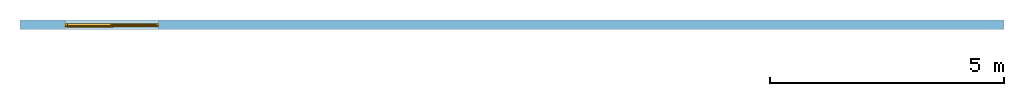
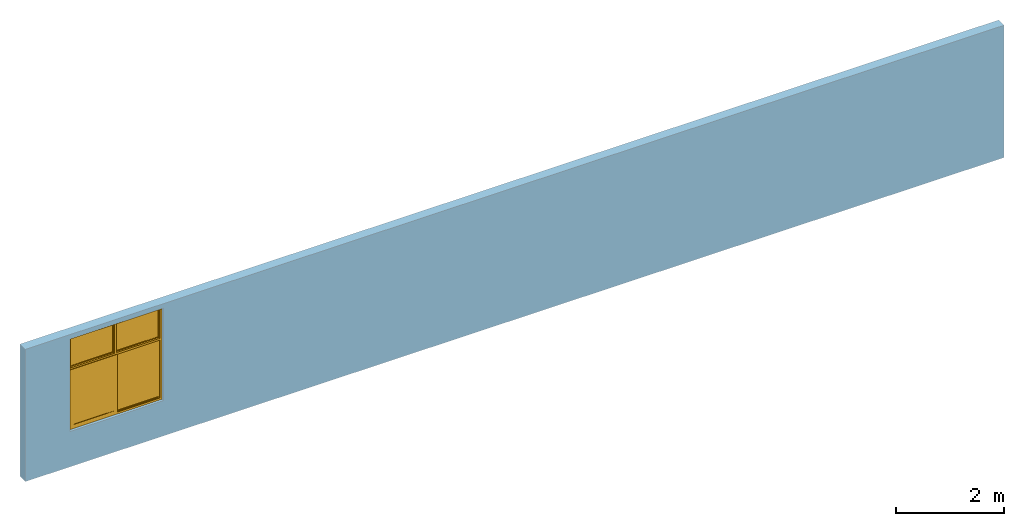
# One storey, part 2 of 2: 1 window, 1 opening, plus 1 element that does not belong to this part.
"""IFC2X3 building model written with IfcOpenShell, lengths in metres."""

from ifc_helpers import new_model, entity, si_unit, converted_unit, derived_unit, direction, frame, frame_2d, origin, place, context, subcontext, project, spatial, rectangle, extrude, faceted_brep, source, transform, mapped, material, material_list, layer, layer_set, layer_usage, type_object, type_shapes, element, fill, save


model = new_model("IFC2X3")

# Units and contexts
model_context = context("Model", 3, precision=1e-05, world=origin(), true_north=direction((6.123031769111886e-17, 1.0)))
body_context = subcontext(model_context, "Body", "Model", "MODEL_VIEW")
ifc_project = project(units=[si_unit("LENGTHUNIT", "METRE"), si_unit("AREAUNIT", "SQUARE_METRE"), si_unit("VOLUMEUNIT", "CUBIC_METRE"), converted_unit("PLANEANGLEUNIT", "DEGREE", entity("IfcPlaneAngleMeasure", 0.017453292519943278), si_unit("PLANEANGLEUNIT", "RADIAN"), dimensions=[0, 0, 0, 0, 0, 0, 0]), si_unit("MASSUNIT", "GRAM", prefix="KILO"), derived_unit("MASSDENSITYUNIT", [(si_unit("MASSUNIT", "GRAM", prefix="KILO"), 1), (si_unit("LENGTHUNIT", "METRE"), -3)]), derived_unit("IONCONCENTRATIONUNIT", [(si_unit("MASSUNIT", "GRAM", prefix="KILO"), 1), (si_unit("LENGTHUNIT", "METRE"), -3)]), derived_unit("MOMENTOFINERTIAUNIT", [(si_unit("LENGTHUNIT", "METRE"), 4)]), si_unit("TIMEUNIT", "SECOND"), si_unit("FREQUENCYUNIT", "HERTZ"), si_unit("THERMODYNAMICTEMPERATUREUNIT", "DEGREE_CELSIUS"), derived_unit("THERMALTRANSMITTANCEUNIT", [(si_unit("MASSUNIT", "GRAM", prefix="KILO"), 1), (si_unit("THERMODYNAMICTEMPERATUREUNIT", "KELVIN"), -1), (si_unit("TIMEUNIT", "SECOND"), -3)]), derived_unit("THERMALCONDUCTANCEUNIT", [(si_unit("MASSUNIT", "GRAM", prefix="KILO"), 1), (si_unit("THERMODYNAMICTEMPERATUREUNIT", "KELVIN"), -1), (si_unit("TIMEUNIT", "SECOND"), -3), (si_unit("LENGTHUNIT", "METRE"), 1)]), derived_unit("VOLUMETRICFLOWRATEUNIT", [(si_unit("LENGTHUNIT", "METRE", prefix="DECI"), 3), (si_unit("TIMEUNIT", "SECOND"), -1)]), derived_unit("MASSFLOWRATEUNIT", [(si_unit("MASSUNIT", "GRAM", prefix="KILO"), 1), (si_unit("TIMEUNIT", "SECOND"), -1)]), derived_unit("ROTATIONALFREQUENCYUNIT", [(si_unit("TIMEUNIT", "SECOND"), -1)]), si_unit("ELECTRICCURRENTUNIT", "AMPERE"), si_unit("ELECTRICVOLTAGEUNIT", "VOLT"), si_unit("POWERUNIT", "WATT"), si_unit("FORCEUNIT", "NEWTON", prefix="KILO"), si_unit("ILLUMINANCEUNIT", "LUX"), si_unit("LUMINOUSFLUXUNIT", "LUMEN"), si_unit("LUMINOUSINTENSITYUNIT", "CANDELA"), si_unit("ENERGYUNIT", "JOULE"), derived_unit("USERDEFINED", [(si_unit("MASSUNIT", "GRAM", prefix="KILO"), -1), (si_unit("LENGTHUNIT", "METRE"), -2), (si_unit("TIMEUNIT", "SECOND"), 3), (si_unit("LUMINOUSFLUXUNIT", "LUMEN"), 1)]), derived_unit("USERDEFINED", [(si_unit("MASSUNIT", "GRAM", prefix="KILO"), 1), (si_unit("TIMEUNIT", "SECOND"), -3), (si_unit("LENGTHUNIT", "METRE"), 3), (si_unit("ELECTRICCURRENTUNIT", "AMPERE"), -2)]), derived_unit("SOUNDPOWERUNIT", [(si_unit("MASSUNIT", "GRAM", prefix="KILO"), 1), (si_unit("TIMEUNIT", "SECOND"), -3), (si_unit("LENGTHUNIT", "METRE"), 2)]), derived_unit("SOUNDPRESSUREUNIT", [(si_unit("MASSUNIT", "GRAM", prefix="KILO"), 1), (si_unit("LENGTHUNIT", "METRE"), -1), (si_unit("TIMEUNIT", "SECOND"), -2)]), derived_unit("LINEARVELOCITYUNIT", [(si_unit("LENGTHUNIT", "METRE"), 1), (si_unit("TIMEUNIT", "SECOND"), -1)]), si_unit("PRESSUREUNIT", "PASCAL"), derived_unit("USERDEFINED", [(si_unit("MASSUNIT", "GRAM", prefix="KILO"), 1), (si_unit("LENGTHUNIT", "METRE"), -2), (si_unit("TIMEUNIT", "SECOND"), -2)]), derived_unit("LINEARFORCEUNIT", [(si_unit("MASSUNIT", "GRAM", prefix="KILO"), 1), (si_unit("TIMEUNIT", "SECOND"), -2)]), derived_unit("PLANARFORCEUNIT", [(si_unit("MASSUNIT", "GRAM", prefix="KILO"), 1), (si_unit("LENGTHUNIT", "METRE"), -1), (si_unit("TIMEUNIT", "SECOND"), -2)]), derived_unit("SPECIFICHEATCAPACITYUNIT", [(si_unit("THERMODYNAMICTEMPERATUREUNIT", "KELVIN"), -1), (si_unit("LENGTHUNIT", "METRE"), 2), (si_unit("TIMEUNIT", "SECOND"), -2)]), derived_unit("HEATFLUXDENSITYUNIT", [(si_unit("MASSUNIT", "GRAM", prefix="KILO"), 1), (si_unit("TIMEUNIT", "SECOND"), -3)]), derived_unit("HEATINGVALUEUNIT", [(si_unit("LENGTHUNIT", "METRE"), 2), (si_unit("TIMEUNIT", "SECOND"), -2)]), derived_unit("VAPORPERMEABILITYUNIT", [(si_unit("LENGTHUNIT", "METRE"), -1), (si_unit("TIMEUNIT", "SECOND"), 1)]), derived_unit("DYNAMICVISCOSITYUNIT", [(si_unit("MASSUNIT", "GRAM", prefix="KILO"), 1), (si_unit("TIMEUNIT", "SECOND"), -1), (si_unit("LENGTHUNIT", "METRE"), -1)]), derived_unit("THERMALEXPANSIONCOEFFICIENTUNIT", [(si_unit("THERMODYNAMICTEMPERATUREUNIT", "KELVIN"), -1)]), derived_unit("MODULUSOFELASTICITYUNIT", [(si_unit("MASSUNIT", "GRAM", prefix="KILO"), 1), (si_unit("LENGTHUNIT", "METRE"), -1), (si_unit("TIMEUNIT", "SECOND"), -2)]), derived_unit("ISOTHERMALMOISTURECAPACITYUNIT", [(si_unit("MASSUNIT", "GRAM", prefix="KILO"), -1), (si_unit("LENGTHUNIT", "METRE"), 3)]), derived_unit("MOISTUREDIFFUSIVITYUNIT", [(si_unit("TIMEUNIT", "SECOND"), -1), (si_unit("LENGTHUNIT", "METRE"), 2)]), derived_unit("MASSPERLENGTHUNIT", [(si_unit("MASSUNIT", "GRAM", prefix="KILO"), 1), (si_unit("LENGTHUNIT", "METRE"), -1)]), derived_unit("THERMALRESISTANCEUNIT", [(si_unit("MASSUNIT", "GRAM", prefix="KILO"), -1), (si_unit("TIMEUNIT", "SECOND"), 3), (si_unit("THERMODYNAMICTEMPERATUREUNIT", "KELVIN"), 1)]), derived_unit("ACCELERATIONUNIT", [(si_unit("LENGTHUNIT", "METRE"), 1), (si_unit("TIMEUNIT", "SECOND"), -2)]), derived_unit("ANGULARVELOCITYUNIT", [(si_unit("TIMEUNIT", "SECOND"), -1), (si_unit("PLANEANGLEUNIT", "RADIAN"), 1)]), derived_unit("LINEARSTIFFNESSUNIT", [(si_unit("MASSUNIT", "GRAM", prefix="KILO"), 1), (si_unit("TIMEUNIT", "SECOND"), -2)]), derived_unit("WARPINGCONSTANTUNIT", [(si_unit("LENGTHUNIT", "METRE"), 6)]), derived_unit("LINEARMOMENTUNIT", [(si_unit("MASSUNIT", "GRAM", prefix="KILO"), 1), (si_unit("LENGTHUNIT", "METRE"), 1), (si_unit("TIMEUNIT", "SECOND"), -2)]), derived_unit("TORQUEUNIT", [(si_unit("MASSUNIT", "GRAM", prefix="KILO"), 1), (si_unit("LENGTHUNIT", "METRE"), 2), (si_unit("TIMEUNIT", "SECOND"), -2)])], contexts=[model_context])

# Site, building, storey
site_placement = place(None, origin())
site = spatial("IfcSite", under=ifc_project, at=site_placement, Name="Default", CompositionType="ELEMENT")
building_placement = place(site_placement, origin())
building = spatial("IfcBuilding", under=site, at=building_placement, CompositionType="ELEMENT")
storey_placement = place(building_placement, origin())
storey = spatial("IfcBuildingStorey", under=building, at=storey_placement, Name="Nivel 1", CompositionType="ELEMENT", Elevation=0.0)

# Wall, opening, window
ifc_material_1 = material(Name="Muro por defecto")
ifc_layer = layer(ifc_material_1, 0.2)
ifc_layer_set = layer_set([ifc_layer], Name="Basic Wall:Por defecto - 20 cm")
ifc_layer_usage = layer_usage(ifc_layer_set, "AXIS2", "NEGATIVE", 0.1)
wall_type = type_object("IfcWallType", Name="Basic Wall:Por defecto - 20 cm", PredefinedType="STANDARD", material=ifc_layer_set)
wall_placement = place(storey_placement, frame((-9.553280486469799, 0.007588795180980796, 0.0)))
wall = element("IfcWallStandardCase", 1, at=wall_placement, inside=storey, type_object=wall_type, material=ifc_layer_usage, Name="Basic Wall:Por defecto - 20 cm", ObjectType="Basic Wall:Por defecto - 20 cm", context=body_context, shape_type="SweptSolid", body=[
    extrude(rectangle(XDim=21.0, YDim=0.2, at=frame_2d((10.5, 0.0), x_axis=(-1.0, 0.0))), origin(), (0.0, 0.0, 1.0), 2.9999999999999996),
])
opening_placement = place(wall_placement, frame((0.96, -0.10000000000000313, 0.7999999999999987)))
opening = element("IfcOpeningElement", 2, at=opening_placement, cuts=wall, Name="Deceuninck_Ventana_monorriel_fijo-superior_Bella-Sliding:Deceuninck_Ventana_monorriel_fijo-superior_Bella-Sliding:1", ObjectType="Opening", context=body_context, shape_type="SweptSolid", body=[
    extrude(rectangle(XDim=2.0999999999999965, YDim=1.9999999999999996, at=frame_2d((1.0499999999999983, 0.9999999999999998), x_axis=(1.0, 0.0))), frame((0.0, 0.0, 0.0), z_axis=(0.0, 1.0, 0.0), x_axis=(0.0, 0.0, 1.0)), (0.0, 0.0, 1.0), 0.2),
])
ifc_material_2 = material(Name="Deceuninck - 1.White/PVC")
ifc_material_3 = material(Name="Glass")
ifc_material_list = material_list([ifc_material_2, ifc_material_3])
window_style = type_object("IfcWindowStyle", Name="Deceuninck_Ventana_monorriel_fijo-superior_Bella-Sliding:Deceuninck_Ventana_monorriel_fijo-superior_Bella-Sliding", ConstructionType="NOTDEFINED", OperationType="NOTDEFINED", ParameterTakesPrecedence=False, Sizeable=False, material=ifc_material_list)
shared_shape = source(origin(), body_context, "Body", "Brep", [
    faceted_brep([(0.0, 0.05300298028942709, 0.0), (0.0, 0.12603508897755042, 0.0), (2.0, 0.12603508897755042, 0.0), (2.0, 0.05300298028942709, 0.0), (2.0, 0.12603508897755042, 2.1000000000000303), (2.0, 0.05300298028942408, 2.1000000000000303), (0.0, 0.12603508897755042, 2.1000000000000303), (1.9467683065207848, 0.12603508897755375, 2.046768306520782), (0.05323169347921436, 0.12603508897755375, 2.046768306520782), (0.05323169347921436, 0.1260350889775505, 0.05323169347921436), (1.946768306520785, 0.1260350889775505, 0.05323169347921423), (1.9559997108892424, 0.05300298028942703, 0.04400028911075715), (0.04400028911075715, 0.05300298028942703, 0.04400028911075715), (0.04400028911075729, 0.05300298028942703, 2.055999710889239), (1.9559997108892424, 0.05300298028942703, 2.055999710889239), (0.0, 0.05300298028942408, 2.10000000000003), (0.04400028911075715, 0.06502141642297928, 0.04400028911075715), (1.9559997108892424, 0.06502141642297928, 0.04400028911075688), (1.9559997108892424, 0.06502141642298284, 2.055999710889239), (1.9798990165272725, 0.06502141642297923, 0.020100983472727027), (0.020100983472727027, 0.06502141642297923, 0.020100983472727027), (0.020100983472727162, 0.06502141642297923, 2.079899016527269), (1.9798990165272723, 0.06502141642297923, 2.079899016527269), (0.04400028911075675, 0.06502141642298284, 2.05599971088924), (0.020100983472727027, 0.08203737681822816, 0.020100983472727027), (1.9798990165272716, 0.08203737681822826, 0.020100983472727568), (1.9798990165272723, 0.08203737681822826, 2.079899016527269), (1.9490002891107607, 0.08203737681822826, 0.050999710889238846), (0.050999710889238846, 0.08203737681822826, 0.050999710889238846), (0.050999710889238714, 0.08203737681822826, 2.0490002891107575), (1.9490002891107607, 0.08203737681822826, 2.0490002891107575), (0.020100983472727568, 0.08203737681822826, 2.0798990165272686), (0.050999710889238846, 0.12089925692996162, 0.050999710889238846), (1.9490002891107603, 0.12089925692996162, 0.050999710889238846), (1.9490002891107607, 0.12089925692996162, 2.0490002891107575), (0.050999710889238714, 0.12089925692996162, 2.0490002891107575)], [[[0, 1, 2, 3]], [[3, 2, 4, 5]], [[2, 1, 6, 4], [7, 8, 9, 10]], [[11, 12, 13, 14], [5, 15, 0, 3]], [[16, 12, 11, 17]], [[17, 11, 14, 18]], [[19, 20, 21, 22], [18, 23, 16, 17]], [[24, 20, 19, 25]], [[25, 19, 22, 26]], [[27, 28, 29, 30], [26, 31, 24, 25]], [[32, 28, 27, 33]], [[33, 27, 30, 34]], [[10, 33, 34, 7]], [[9, 32, 33, 10]], [[15, 6, 1, 0]], [[23, 13, 12, 16]], [[31, 21, 20, 24]], [[35, 29, 28, 32]], [[8, 35, 32, 9]], [[5, 4, 6, 15]], [[18, 14, 13, 23]], [[26, 22, 21, 31]], [[34, 30, 29, 35]], [[7, 34, 35, 8]]], outer=[[True], [True], [True, False], [False, True], [True], [True], [True, False], [True], [True], [False, True], [True], [True], [True], [True], [True], [True], [True], [True], [True], [True], [True], [True], [True], [True]]),
    faceted_brep([(0.04400028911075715, 0.12603508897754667, 1.3468744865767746), (0.04400028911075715, 0.12098607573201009, 1.3449363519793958), (0.04400028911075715, 0.08208045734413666, 1.3449363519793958), (0.04400028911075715, 0.08208045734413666, 1.3800206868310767), (0.04400028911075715, 0.06502141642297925, 1.3800206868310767), (0.04400028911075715, 0.06502141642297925, 1.3560265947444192), (0.04400028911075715, 0.053002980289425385, 1.3560265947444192), (0.04400028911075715, 0.053002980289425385, 1.399999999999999), (0.04400028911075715, 0.08798456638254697, 1.399999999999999), (0.04400028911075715, 0.08798456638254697, 1.4141691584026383), (0.04400028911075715, 0.09406247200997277, 1.416381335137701), (0.04400028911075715, 0.09406247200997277, 1.399420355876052), (0.04400028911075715, 0.11991703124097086, 1.399420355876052), (0.04400028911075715, 0.11991703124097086, 1.4164197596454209), (0.04400028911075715, 0.12603508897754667, 1.414192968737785), (1.9559997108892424, 0.12603508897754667, 1.3468744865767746), (1.9559997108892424, 0.12603508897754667, 1.414192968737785), (1.9559997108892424, 0.11991703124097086, 1.4164197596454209), (1.9559997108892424, 0.11991703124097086, 1.399420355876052), (1.9559997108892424, 0.09406247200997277, 1.399420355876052), (1.9559997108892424, 0.09406247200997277, 1.416381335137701), (1.9559997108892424, 0.08798456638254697, 1.4141691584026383), (1.9559997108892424, 0.08798456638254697, 1.399999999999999), (1.9559997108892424, 0.053002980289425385, 1.399999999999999), (1.9559997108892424, 0.053002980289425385, 1.3560265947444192), (1.9559997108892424, 0.06502141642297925, 1.3560265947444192), (1.9559997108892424, 0.06502141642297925, 1.3800206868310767), (1.9559997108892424, 0.08208045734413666, 1.3800206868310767), (1.9559997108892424, 0.08208045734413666, 1.3449363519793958), (1.9559997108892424, 0.12098607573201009, 1.3449363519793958)], [[[0, 1, 2, 3, 4, 5, 6, 7, 8, 9, 10, 11, 12, 13, 14]], [[15, 16, 17, 18, 19, 20, 21, 22, 23, 24, 25, 26, 27, 28, 29]], [[1, 0, 15, 29]], [[2, 1, 29, 28]], [[2, 28, 27, 3]], [[4, 3, 27, 26]], [[5, 4, 26, 25]], [[6, 5, 25, 24]], [[7, 6, 24, 23]], [[0, 14, 16, 15]], [[8, 7, 23, 22]], [[9, 8, 22, 21]], [[10, 9, 21, 20]], [[11, 10, 20, 19]], [[12, 11, 19, 18]], [[13, 12, 18, 17]], [[14, 13, 17, 16]]]),
    faceted_brep([(1.0338035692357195, 0.12603508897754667, 2.0559997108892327), (0.9664850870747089, 0.12603508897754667, 2.055999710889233), (0.9642582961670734, 0.11991703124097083, 2.055999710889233), (0.9812576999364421, 0.11991703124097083, 2.055999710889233), (0.9812576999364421, 0.09406247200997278, 2.055999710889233), (0.9642967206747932, 0.09406247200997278, 2.055999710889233), (0.9665088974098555, 0.087984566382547, 2.055999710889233), (0.9806780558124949, 0.087984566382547, 2.055999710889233), (0.9806780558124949, 0.053002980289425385, 2.055999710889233), (1.0246514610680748, 0.053002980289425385, 2.055999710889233), (1.0246514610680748, 0.06502141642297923, 2.055999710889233), (1.000657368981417, 0.06502141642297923, 2.055999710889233), (1.000657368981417, 0.08208045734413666, 2.055999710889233), (1.0357417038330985, 0.08208045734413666, 2.0559997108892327), (1.0357417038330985, 0.12098607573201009, 2.0559997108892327), (1.0338035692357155, 0.12603508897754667, 1.3999999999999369), (0.9664850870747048, 0.12603508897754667, 1.3999999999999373), (0.9642582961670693, 0.11991703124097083, 1.3999999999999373), (0.981257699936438, 0.11991703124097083, 1.3999999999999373), (0.981257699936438, 0.09406247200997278, 1.3999999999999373), (0.9642967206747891, 0.09406247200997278, 1.3999999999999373), (0.9665088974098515, 0.087984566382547, 1.3999999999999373), (0.9806780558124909, 0.087984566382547, 1.3999999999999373), (0.9806780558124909, 0.053002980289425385, 1.3999999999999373), (1.0246514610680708, 0.053002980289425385, 1.3999999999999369), (1.0246514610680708, 0.06502141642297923, 1.3999999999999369), (1.000657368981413, 0.06502141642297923, 1.3999999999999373), (1.000657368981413, 0.08208045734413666, 1.3999999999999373), (1.0357417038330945, 0.08208045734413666, 1.3999999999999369), (1.0357417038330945, 0.12098607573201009, 1.3999999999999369)], [[[0, 1, 2, 3, 4, 5, 6, 7, 8, 9, 10, 11, 12, 13, 14]], [[15, 16, 1, 0]], [[16, 17, 2, 1]], [[17, 18, 3, 2]], [[18, 19, 4, 3]], [[19, 20, 5, 4]], [[20, 21, 6, 5]], [[21, 22, 7, 6]], [[22, 23, 8, 7]], [[23, 24, 9, 8]], [[24, 25, 10, 9]], [[25, 26, 11, 10]], [[26, 27, 12, 11]], [[28, 13, 12, 27]], [[28, 29, 14, 13]], [[29, 15, 0, 14]], [[15, 29, 28, 27, 26, 25, 24, 23, 22, 21, 20, 19, 18, 17, 16]]]),
    faceted_brep([(1.9448990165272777, 0.11602255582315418, 2.0448990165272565), (1.0127700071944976, 0.11602255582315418, 2.04489901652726), (1.012770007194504, 0.11202255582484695, 2.04489901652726), (1.9448990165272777, 0.11202255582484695, 2.0448990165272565), (1.9448990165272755, 0.11602255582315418, 1.3994999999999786), (1.0127700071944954, 0.11602255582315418, 1.3994999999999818), (1.012770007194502, 0.11202255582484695, 1.3994999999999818), (1.9448990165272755, 0.11202255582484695, 1.3994999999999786)], [[[0, 1, 2, 3]], [[1, 0, 4, 5]], [[2, 1, 5, 6]], [[3, 2, 6, 7]], [[0, 3, 7, 4]], [[4, 7, 6, 5]]]),
    faceted_brep([(1.012770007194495, 0.0960138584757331, 2.04489901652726), (1.0127700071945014, 0.10002255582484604, 2.04489901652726), (1.0127700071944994, 0.10002255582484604, 1.3994999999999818), (1.012770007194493, 0.0960138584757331, 1.3994999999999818), (1.9448990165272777, 0.0960138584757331, 2.0448990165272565), (1.9448990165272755, 0.0960138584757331, 1.3994999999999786), (1.9448990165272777, 0.10002255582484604, 2.0448990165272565), (1.9448990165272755, 0.10002255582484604, 1.3994999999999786)], [[[0, 1, 2, 3]], [[4, 0, 3, 5]], [[6, 4, 5, 7]], [[1, 6, 7, 2]], [[2, 7, 5, 3]], [[1, 0, 4, 6]]]),
    faceted_brep([(0.04400028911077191, 0.11602255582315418, 2.0490002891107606), (0.04400028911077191, 0.11202255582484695, 2.0490002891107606), (0.9647500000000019, 0.11202255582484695, 2.0490002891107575), (0.9647500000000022, 0.11602255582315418, 2.0490002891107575), (0.044000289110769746, 0.11602255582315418, 1.3994999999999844), (0.044000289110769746, 0.11202255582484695, 1.3994999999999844), (0.9647499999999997, 0.11202255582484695, 1.3994999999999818), (0.9647500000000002, 0.11602255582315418, 1.3994999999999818)], [[[0, 1, 2, 3]], [[1, 0, 4, 5]], [[2, 1, 5, 6]], [[3, 2, 6, 7]], [[0, 3, 7, 4]], [[4, 7, 6, 5]]]),
    faceted_brep([(0.9647500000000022, 0.10002255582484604, 2.0490002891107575), (0.9647500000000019, 0.0960138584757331, 2.0490002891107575), (0.9647499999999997, 0.0960138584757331, 1.3994999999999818), (0.9647500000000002, 0.10002255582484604, 1.3994999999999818), (0.04400028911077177, 0.10002255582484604, 2.0490002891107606), (0.044000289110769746, 0.10002255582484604, 1.3994999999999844), (0.04400028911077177, 0.0960138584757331, 2.0490002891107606), (0.044000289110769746, 0.0960138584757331, 1.3994999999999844)], [[[0, 1, 2, 3]], [[4, 0, 3, 5]], [[6, 4, 5, 7]], [[1, 6, 7, 2]], [[2, 7, 5, 3]], [[1, 0, 4, 6]]]),
    faceted_brep([(0.9660200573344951, 0.07115434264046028, 1.2962700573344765), (0.9685388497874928, 0.07807466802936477, 1.298788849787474), (0.968538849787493, 0.07807466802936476, 0.10121115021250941), (0.966020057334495, 0.07115434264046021, 0.10372994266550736), (1.034733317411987, 0.07807466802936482, 1.364983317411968), (1.034733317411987, 0.07807466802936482, 0.03501668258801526), (0.03501668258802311, 0.07807466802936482, 0.03501668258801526), (0.03501668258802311, 0.07807466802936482, 1.364983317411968), (0.10121115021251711, 0.07807466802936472, 1.298788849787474), (0.10121115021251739, 0.07807466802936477, 0.10121115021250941), (0.10372994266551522, 0.07115434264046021, 0.10372994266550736), (0.10372994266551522, 0.07115434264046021, 1.296270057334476), (0.08298854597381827, 0.07115434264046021, 1.3170114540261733), (0.08298854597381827, 0.07115434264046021, 0.08298854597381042), (0.9867614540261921, 0.07115434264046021, 0.08298854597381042), (0.986761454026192, 0.07115434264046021, 1.3170114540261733), (0.986761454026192, 0.04607502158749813, 1.3170114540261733), (0.9867614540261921, 0.04607502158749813, 0.08298854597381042), (0.08298854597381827, 0.04607502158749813, 0.08298854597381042), (0.08298854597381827, 0.04607502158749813, 1.3170114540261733), (0.10338973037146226, 0.04607502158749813, 1.2966102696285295), (0.1033897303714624, 0.04607502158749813, 0.10338973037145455), (0.9663602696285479, 0.04607502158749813, 0.10338973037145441), (0.9663602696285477, 0.04607502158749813, 1.2966102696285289), (0.9685713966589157, 0.040000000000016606, 1.298821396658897), (0.9685713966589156, 0.04000000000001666, 0.10117860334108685), (0.10117860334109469, 0.04000000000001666, 0.10117860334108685), (0.10117860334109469, 0.04000000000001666, 1.2988213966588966), (0.03502402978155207, 0.04000000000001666, 1.3649759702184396), (0.03502402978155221, 0.04000000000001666, 0.035024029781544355), (1.0347259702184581, 0.04000000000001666, 0.035024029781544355), (1.034725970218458, 0.04000000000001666, 1.3649759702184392), (1.034725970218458, 0.05007351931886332, 1.3649759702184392), (1.0347259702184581, 0.05007351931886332, 0.035024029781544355), (0.03502402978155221, 0.05007351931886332, 0.035024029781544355), (0.03502402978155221, 0.05007351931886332, 1.3649759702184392), (0.06603929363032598, 0.05007351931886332, 1.3339607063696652), (0.06603929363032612, 0.05007351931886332, 0.06603929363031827), (1.0037107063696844, 0.05007351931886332, 0.06603929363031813), (1.0037107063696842, 0.05007351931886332, 1.3339607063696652), (1.0037107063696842, 0.06807652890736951, 1.3339607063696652), (1.0037107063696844, 0.06807652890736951, 0.06603929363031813), (0.06603929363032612, 0.06807652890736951, 0.06603929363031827), (0.06603929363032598, 0.06807652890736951, 1.3339607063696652), (0.03501668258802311, 0.06807652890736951, 1.364983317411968), (0.03501668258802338, 0.06807652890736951, 0.035016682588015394), (1.0347333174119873, 0.06807652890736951, 0.03501668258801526), (1.034733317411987, 0.06807652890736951, 1.364983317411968)], [[[0, 1, 2, 3]], [[4, 5, 6, 7], [8, 9, 2, 1]], [[3, 2, 9, 10]], [[0, 3, 10, 11], [12, 13, 14, 15]], [[16, 15, 14, 17]], [[17, 14, 13, 18]], [[16, 17, 18, 19], [20, 21, 22, 23]], [[24, 23, 22, 25]], [[25, 22, 21, 26]], [[24, 25, 26, 27], [28, 29, 30, 31]], [[32, 31, 30, 33]], [[33, 30, 29, 34]], [[32, 33, 34, 35], [36, 37, 38, 39]], [[40, 39, 38, 41]], [[41, 38, 37, 42]], [[40, 41, 42, 43], [44, 45, 46, 47]], [[4, 47, 46, 5]], [[5, 46, 45, 6]], [[10, 9, 8, 11]], [[18, 13, 12, 19]], [[26, 21, 20, 27]], [[34, 29, 28, 35]], [[42, 37, 36, 43]], [[6, 45, 44, 7]], [[11, 8, 1, 0]], [[19, 12, 15, 16]], [[27, 20, 23, 24]], [[35, 28, 31, 32]], [[43, 36, 39, 40]], [[7, 44, 47, 4]]], outer=[[True], [True, False], [True], [False, True], [True], [True], [True, False], [True], [True], [False, True], [True], [True], [True, False], [True], [True], [False, True], [True], [True], [True], [True], [True], [True], [True], [True], [True], [True], [True], [True], [True], [True]]),
    faceted_brep([(0.9867614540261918, 0.06407502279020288, 0.08931990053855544), (0.08298854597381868, 0.06407502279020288, 0.08931990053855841), (0.08298854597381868, 0.06807502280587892, 0.08931990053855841), (0.9867614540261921, 0.06807502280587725, 0.08931990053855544), (0.9867614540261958, 0.06407502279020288, 1.3110397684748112), (0.0829885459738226, 0.06407502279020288, 1.3110397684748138), (0.0829885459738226, 0.06807502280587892, 1.3110397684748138), (0.986761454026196, 0.06807502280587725, 1.3110397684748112)], [[[0, 1, 2, 3]], [[4, 5, 1, 0]], [[5, 6, 2, 1]], [[6, 7, 3, 2]], [[7, 4, 0, 3]], [[4, 7, 6, 5]]]),
    faceted_brep([(0.9867614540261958, 0.052075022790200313, 1.3110397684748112), (0.986761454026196, 0.04806632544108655, 1.3110397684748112), (0.9867614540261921, 0.04806632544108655, 0.08931990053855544), (0.9867614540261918, 0.052075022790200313, 0.08931990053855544), (0.0829885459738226, 0.04806632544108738, 1.3110397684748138), (0.08298854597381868, 0.04806632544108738, 0.08931990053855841), (0.0829885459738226, 0.052075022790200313, 1.3110397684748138), (0.08298854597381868, 0.052075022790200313, 0.08931990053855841)], [[[0, 1, 2, 3]], [[1, 4, 5, 2]], [[4, 6, 7, 5]], [[6, 0, 3, 7]], [[0, 6, 4, 1]], [[3, 2, 5, 7]]]),
    faceted_brep([(1.0127700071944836, 0.10002255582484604, 0.05510098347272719), (1.9490002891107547, 0.10002255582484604, 0.05510098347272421), (1.9490002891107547, 0.0960138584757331, 0.05510098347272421), (1.0127700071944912, 0.0960138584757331, 0.05510098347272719), (1.0127700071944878, 0.10002255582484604, 1.344936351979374), (1.9490002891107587, 0.10002255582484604, 1.3449363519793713), (1.9490002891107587, 0.0960138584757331, 1.3449363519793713), (1.0127700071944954, 0.0960138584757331, 1.344936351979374)], [[[0, 1, 2, 3]], [[4, 5, 1, 0]], [[5, 6, 2, 1]], [[6, 7, 3, 2]], [[7, 4, 0, 3]], [[4, 7, 6, 5]]]),
    faceted_brep([(1.0127700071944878, 0.11202255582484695, 1.344936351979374), (1.0127700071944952, 0.11602255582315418, 1.344936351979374), (1.0127700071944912, 0.11602255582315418, 0.05510098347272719), (1.0127700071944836, 0.11202255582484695, 0.05510098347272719), (1.949000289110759, 0.11602255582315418, 1.3449363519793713), (1.9490002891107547, 0.11602255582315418, 0.05510098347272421), (1.949000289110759, 0.11202255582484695, 1.3449363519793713), (1.9490002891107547, 0.11202255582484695, 0.05510098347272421)], [[[0, 1, 2, 3]], [[1, 4, 5, 2]], [[4, 6, 7, 5]], [[6, 0, 3, 7]], [[0, 6, 4, 1]], [[3, 2, 5, 7]]]),
    faceted_brep([(1.030892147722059, 0.1260350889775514, 0.050999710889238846), (1.0327291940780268, 0.1209878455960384, 0.050999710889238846), (1.0327291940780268, 0.11902109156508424, 0.050999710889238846), (1.0127700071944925, 0.11902109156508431, 0.050999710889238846), (1.0127700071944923, 0.09402255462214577, 0.050999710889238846), (1.0330904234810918, 0.09402255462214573, 0.050999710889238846), (1.0309070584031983, 0.0880238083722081, 0.050999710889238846), (0.9647499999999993, 0.0880238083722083, 0.050999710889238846), (0.9647499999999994, 0.09802223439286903, 0.050999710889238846), (0.9957283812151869, 0.09802223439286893, 0.050999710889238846), (0.995728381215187, 0.116015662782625, 0.050999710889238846), (0.9647499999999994, 0.11601566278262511, 0.050999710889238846), (0.9647499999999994, 0.1260350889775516, 0.050999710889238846), (1.030892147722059, 0.1260350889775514, 1.3449363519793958), (1.0327291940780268, 0.1209878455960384, 1.3449363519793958), (1.0327291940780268, 0.11902109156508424, 1.3449363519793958), (1.0127700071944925, 0.11902109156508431, 1.3449363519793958), (1.0127700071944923, 0.09402255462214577, 1.3449363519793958), (1.0330904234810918, 0.09402255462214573, 1.3449363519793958), (1.0309070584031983, 0.0880238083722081, 1.3449363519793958), (0.9647499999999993, 0.0880238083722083, 1.3449363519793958), (0.9647499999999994, 0.09802223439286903, 1.3449363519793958), (0.9957283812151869, 0.09802223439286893, 1.3449363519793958), (0.995728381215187, 0.116015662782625, 1.3449363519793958), (0.9647499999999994, 0.11601566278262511, 1.3449363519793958), (0.9647499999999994, 0.1260350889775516, 1.3449363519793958)], [[[0, 1, 2, 3, 4, 5, 6, 7, 8, 9, 10, 11, 12]], [[1, 0, 13, 14]], [[2, 1, 14, 15]], [[3, 2, 15, 16]], [[4, 3, 16, 17]], [[5, 4, 17, 18]], [[6, 5, 18, 19]], [[7, 6, 19, 20]], [[8, 7, 20, 21]], [[9, 8, 21, 22]], [[10, 9, 22, 23]], [[11, 10, 23, 24]], [[12, 11, 24, 25]], [[0, 12, 25, 13]], [[13, 25, 24, 23, 22, 21, 20, 19, 18, 17, 16, 15, 14]]]),
])
type_shapes(window_style, [shared_shape])
window_placement = place(opening_placement, origin())
window = element("IfcWindow", 3, at=window_placement, inside=storey, type_object=window_style, material=ifc_material_list, Name="Deceuninck_Ventana_monorriel_fijo-superior_Bella-Sliding:Deceuninck_Ventana_monorriel_fijo-superior_Bella-Sliding", ObjectType="Deceuninck_Ventana_monorriel_fijo-superior_Bella-Sliding:Deceuninck_Ventana_monorriel_fijo-superior_Bella-Sliding", OverallHeight=2.0999999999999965, OverallWidth=2.0, context=body_context, shape_type="MappedRepresentation", body=[
    mapped(shared_shape, transform((0.0, 0.0, 0.0), scale=1.0)),
])
fill(opening, window)

save(model, "model.ifc")
